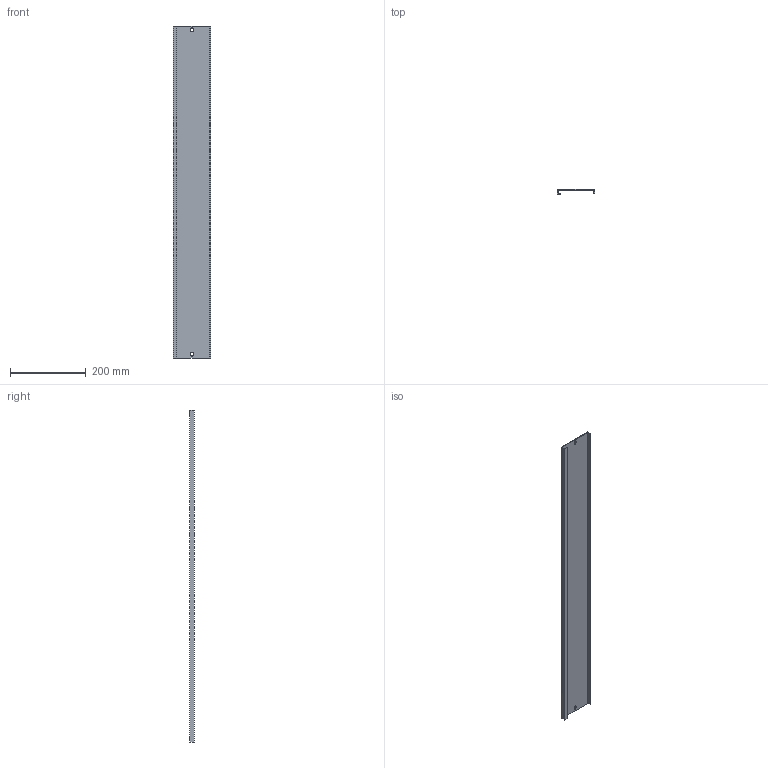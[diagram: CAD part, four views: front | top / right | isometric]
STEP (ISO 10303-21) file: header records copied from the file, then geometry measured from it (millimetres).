
FILE_DESCRIPTION (( 'STEP AP214' ), '1' );
FILE_NAME ('FO-00-PVS-010-100 Ïëàñòðîí ãëóõîé âíóòðåííèé 100õ1000.STEP', '2025-08-26T10:36:54', ( '' ), ( '' ), 'SwSTEP 2.0', 'SolidWorks 2023', '' );
FILE_SCHEMA (( 'AUTOMOTIVE_DESIGN' ));
Length unit declared in the file: millimetre
Products named in the file (1): FO-00-PVS-010-100 Пластрон глухой внутренний 100х1000
Bounding box: 98 x 12.5 x 879 mm (x, y, z)
Volume: 163315.5 mm3; surface area: 220847 mm2
Topology: 1 solids, 1 shells, 32 faces, 90 edges, 60 vertices
Faces by surface type: plane 26, cylinder 6
Entity records: 1057 total; most frequent: CARTESIAN_POINT 183, ORIENTED_EDGE 180, DIRECTION 168, EDGE_CURVE 90, LINE 78, VECTOR 78, VERTEX_POINT 60, AXIS2_PLACEMENT_3D 45
